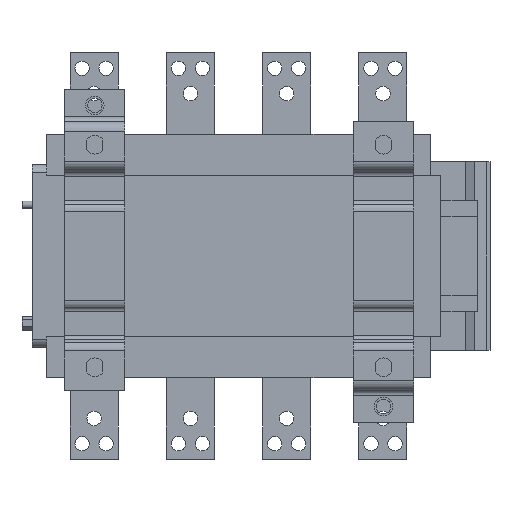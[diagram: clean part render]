
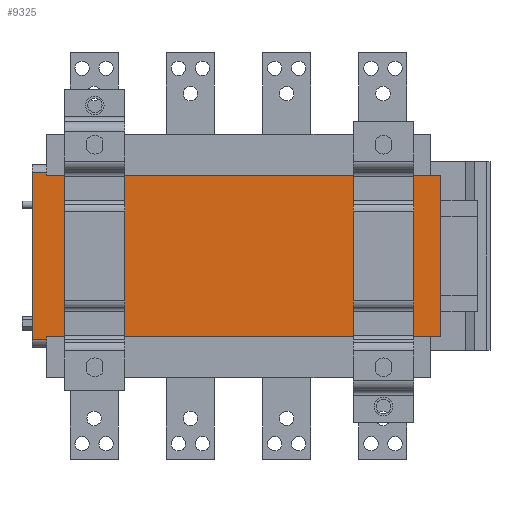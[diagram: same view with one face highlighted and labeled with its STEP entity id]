
A CAD part, front view. The second image highlights one B-rep face of the part: STEP entity #9325.
In plain terms, the highlighted planar face has unit normal (0, -1, 0).
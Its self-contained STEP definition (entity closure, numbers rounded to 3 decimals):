
#1103=DIRECTION('',(0.,0.,1.));
#1104=VECTOR('',#1103,1.9);
#1105=CARTESIAN_POINT('',(-159.25,14.5,-69.1));
#1106=LINE('',#1105,#1104);
#1176=DIRECTION('',(0.,0.,1.));
#1177=VECTOR('',#1176,1.9);
#1178=CARTESIAN_POINT('',(-159.25,14.5,67.2));
#1179=LINE('',#1178,#1177);
#1395=DIRECTION('',(-1.,0.,0.));
#1396=VECTOR('',#1395,327.75);
#1397=CARTESIAN_POINT('',(168.5,14.5,-67.2));
#1398=LINE('',#1397,#1396);
#1399=DIRECTION('',(-1.,0.,0.));
#1400=VECTOR('',#1399,11.75);
#1401=CARTESIAN_POINT('',(-159.25,14.5,-69.1));
#1402=LINE('',#1401,#1400);
#1403=DIRECTION('',(0.,0.,1.));
#1404=VECTOR('',#1403,138.2);
#1405=CARTESIAN_POINT('',(-171.,14.5,-69.1));
#1406=LINE('',#1405,#1404);
#1407=DIRECTION('',(0.,0.,-1.));
#1408=VECTOR('',#1407,134.4);
#1409=CARTESIAN_POINT('',(168.5,14.5,67.2));
#1410=LINE('',#1409,#1408);
#1411=DIRECTION('',(0.,0.,-1.));
#1412=VECTOR('',#1411,20.);
#1413=CARTESIAN_POINT('',(-144.25,14.5,66.15));
#1414=LINE('',#1413,#1412);
#1415=DIRECTION('',(1.,0.,0.));
#1416=VECTOR('',#1415,50.);
#1417=CARTESIAN_POINT('',(-144.25,14.5,46.15));
#1418=LINE('',#1417,#1416);
#1419=DIRECTION('',(0.,0.,-1.));
#1420=VECTOR('',#1419,20.);
#1421=CARTESIAN_POINT('',(-94.25,14.5,66.15));
#1422=LINE('',#1421,#1420);
#1423=DIRECTION('',(1.,0.,0.));
#1424=VECTOR('',#1423,50.);
#1425=CARTESIAN_POINT('',(-144.25,14.5,66.15));
#1426=LINE('',#1425,#1424);
#1427=DIRECTION('',(0.,0.,-1.));
#1428=VECTOR('',#1427,20.);
#1429=CARTESIAN_POINT('',(-144.25,14.5,-46.15));
#1430=LINE('',#1429,#1428);
#1431=DIRECTION('',(1.,0.,0.));
#1432=VECTOR('',#1431,50.);
#1433=CARTESIAN_POINT('',(-144.25,14.5,-66.15));
#1434=LINE('',#1433,#1432);
#1435=DIRECTION('',(0.,0.,-1.));
#1436=VECTOR('',#1435,20.);
#1437=CARTESIAN_POINT('',(-94.25,14.5,-46.15));
#1438=LINE('',#1437,#1436);
#1439=DIRECTION('',(1.,0.,0.));
#1440=VECTOR('',#1439,50.);
#1441=CARTESIAN_POINT('',(-144.25,14.5,-46.15));
#1442=LINE('',#1441,#1440);
#1443=DIRECTION('',(0.,0.,-1.));
#1444=VECTOR('',#1443,20.);
#1445=CARTESIAN_POINT('',(145.75,14.5,66.15));
#1446=LINE('',#1445,#1444);
#1447=DIRECTION('',(-1.,0.,0.));
#1448=VECTOR('',#1447,50.);
#1449=CARTESIAN_POINT('',(145.75,14.5,66.15));
#1450=LINE('',#1449,#1448);
#1451=DIRECTION('',(0.,0.,-1.));
#1452=VECTOR('',#1451,20.);
#1453=CARTESIAN_POINT('',(95.75,14.5,66.15));
#1454=LINE('',#1453,#1452);
#1455=DIRECTION('',(-1.,0.,0.));
#1456=VECTOR('',#1455,50.);
#1457=CARTESIAN_POINT('',(145.75,14.5,46.15));
#1458=LINE('',#1457,#1456);
#1459=DIRECTION('',(0.,0.,-1.));
#1460=VECTOR('',#1459,20.);
#1461=CARTESIAN_POINT('',(145.75,14.5,-46.15));
#1462=LINE('',#1461,#1460);
#1463=DIRECTION('',(-1.,0.,0.));
#1464=VECTOR('',#1463,50.);
#1465=CARTESIAN_POINT('',(145.75,14.5,-46.15));
#1466=LINE('',#1465,#1464);
#1467=DIRECTION('',(0.,0.,-1.));
#1468=VECTOR('',#1467,20.);
#1469=CARTESIAN_POINT('',(95.75,14.5,-46.15));
#1470=LINE('',#1469,#1468);
#1471=DIRECTION('',(-1.,0.,0.));
#1472=VECTOR('',#1471,50.);
#1473=CARTESIAN_POINT('',(145.75,14.5,-66.15));
#1474=LINE('',#1473,#1472);
#1495=DIRECTION('',(-1.,0.,0.));
#1496=VECTOR('',#1495,11.75);
#1497=CARTESIAN_POINT('',(-159.25,14.5,69.1));
#1498=LINE('',#1497,#1496);
#1511=DIRECTION('',(-1.,0.,0.));
#1512=VECTOR('',#1511,327.75);
#1513=CARTESIAN_POINT('',(168.5,14.5,67.2));
#1514=LINE('',#1513,#1512);
#6129=CARTESIAN_POINT('',(-159.25,14.5,-69.1));
#6130=VERTEX_POINT('',#6129);
#6131=CARTESIAN_POINT('',(-159.25,14.5,-67.2));
#6132=VERTEX_POINT('',#6131);
#6159=CARTESIAN_POINT('',(-171.,14.5,69.1));
#6160=VERTEX_POINT('',#6159);
#6161=CARTESIAN_POINT('',(-171.,14.5,-69.1));
#6162=VERTEX_POINT('',#6161);
#6175=CARTESIAN_POINT('',(-159.25,14.5,67.2));
#6176=VERTEX_POINT('',#6175);
#6177=CARTESIAN_POINT('',(-159.25,14.5,69.1));
#6178=VERTEX_POINT('',#6177);
#6214=CARTESIAN_POINT('',(168.5,14.5,-67.2));
#6215=VERTEX_POINT('',#6214);
#6216=CARTESIAN_POINT('',(168.5,14.5,67.2));
#6217=VERTEX_POINT('',#6216);
#6888=CARTESIAN_POINT('',(-144.25,14.5,66.15));
#6889=CARTESIAN_POINT('',(-144.25,14.5,46.15));
#6890=VERTEX_POINT('',#6888);
#6891=VERTEX_POINT('',#6889);
#6892=CARTESIAN_POINT('',(-144.25,14.5,-46.15));
#6893=CARTESIAN_POINT('',(-144.25,14.5,-66.15));
#6894=VERTEX_POINT('',#6892);
#6895=VERTEX_POINT('',#6893);
#6896=CARTESIAN_POINT('',(-94.25,14.5,66.15));
#6897=VERTEX_POINT('',#6896);
#6898=CARTESIAN_POINT('',(-94.25,14.5,46.15));
#6899=VERTEX_POINT('',#6898);
#6900=CARTESIAN_POINT('',(-94.25,14.5,-46.15));
#6901=VERTEX_POINT('',#6900);
#6902=CARTESIAN_POINT('',(-94.25,14.5,-66.15));
#6903=VERTEX_POINT('',#6902);
#7112=CARTESIAN_POINT('',(145.75,14.5,66.15));
#7113=CARTESIAN_POINT('',(145.75,14.5,46.15));
#7114=VERTEX_POINT('',#7112);
#7115=VERTEX_POINT('',#7113);
#7116=CARTESIAN_POINT('',(145.75,14.5,-46.15));
#7117=CARTESIAN_POINT('',(145.75,14.5,-66.15));
#7118=VERTEX_POINT('',#7116);
#7119=VERTEX_POINT('',#7117);
#7120=CARTESIAN_POINT('',(95.75,14.5,-66.15));
#7121=VERTEX_POINT('',#7120);
#7122=CARTESIAN_POINT('',(95.75,14.5,-46.15));
#7123=VERTEX_POINT('',#7122);
#7124=CARTESIAN_POINT('',(95.75,14.5,46.15));
#7125=VERTEX_POINT('',#7124);
#7126=CARTESIAN_POINT('',(95.75,14.5,66.15));
#7127=VERTEX_POINT('',#7126);
#9267=CARTESIAN_POINT('',(168.5,14.5,67.2));
#9268=DIRECTION('',(0.,-1.,0.));
#9269=DIRECTION('',(0.,0.,-1.));
#9270=AXIS2_PLACEMENT_3D('',#9267,#9268,#9269);
#9271=PLANE('',#9270);
#9272=ORIENTED_EDGE('',*,*,#9260,.T.);
#9273=ORIENTED_EDGE('',*,*,#8920,.F.);
#9275=ORIENTED_EDGE('',*,*,#9274,.T.);
#9276=ORIENTED_EDGE('',*,*,#8975,.T.);
#9278=ORIENTED_EDGE('',*,*,#9277,.F.);
#9279=ORIENTED_EDGE('',*,*,#9011,.F.);
#9281=ORIENTED_EDGE('',*,*,#9280,.F.);
#9282=ORIENTED_EDGE('',*,*,#9167,.T.);
#9283=EDGE_LOOP('',(#9272,#9273,#9275,#9276,#9278,#9279,#9281,#9282));
#9284=FACE_OUTER_BOUND('',#9283,.F.);
#9286=ORIENTED_EDGE('',*,*,#9285,.T.);
#9288=ORIENTED_EDGE('',*,*,#9287,.T.);
#9290=ORIENTED_EDGE('',*,*,#9289,.F.);
#9292=ORIENTED_EDGE('',*,*,#9291,.F.);
#9293=EDGE_LOOP('',(#9286,#9288,#9290,#9292));
#9294=FACE_BOUND('',#9293,.F.);
#9296=ORIENTED_EDGE('',*,*,#9295,.T.);
#9298=ORIENTED_EDGE('',*,*,#9297,.T.);
#9300=ORIENTED_EDGE('',*,*,#9299,.F.);
#9302=ORIENTED_EDGE('',*,*,#9301,.F.);
#9303=EDGE_LOOP('',(#9296,#9298,#9300,#9302));
#9304=FACE_BOUND('',#9303,.F.);
#9306=ORIENTED_EDGE('',*,*,#9305,.F.);
#9308=ORIENTED_EDGE('',*,*,#9307,.T.);
#9310=ORIENTED_EDGE('',*,*,#9309,.T.);
#9312=ORIENTED_EDGE('',*,*,#9311,.F.);
#9313=EDGE_LOOP('',(#9306,#9308,#9310,#9312));
#9314=FACE_BOUND('',#9313,.F.);
#9316=ORIENTED_EDGE('',*,*,#9315,.F.);
#9318=ORIENTED_EDGE('',*,*,#9317,.T.);
#9320=ORIENTED_EDGE('',*,*,#9319,.T.);
#9322=ORIENTED_EDGE('',*,*,#9321,.F.);
#9323=EDGE_LOOP('',(#9316,#9318,#9320,#9322));
#9324=FACE_BOUND('',#9323,.F.);
#9325=ADVANCED_FACE('',(#9284,#9294,#9304,#9314,#9324),#9271,.T.);
#8920=EDGE_CURVE('',#6130,#6132,#1106,.T.);
#8975=EDGE_CURVE('',#6162,#6160,#1406,.T.);
#9011=EDGE_CURVE('',#6176,#6178,#1179,.T.);
#9167=EDGE_CURVE('',#6217,#6215,#1410,.T.);
#9260=EDGE_CURVE('',#6215,#6132,#1398,.T.);
#9274=EDGE_CURVE('',#6130,#6162,#1402,.T.);
#9277=EDGE_CURVE('',#6178,#6160,#1498,.T.);
#9280=EDGE_CURVE('',#6217,#6176,#1514,.T.);
#9285=EDGE_CURVE('',#6890,#6891,#1414,.T.);
#9287=EDGE_CURVE('',#6891,#6899,#1418,.T.);
#9289=EDGE_CURVE('',#6897,#6899,#1422,.T.);
#9291=EDGE_CURVE('',#6890,#6897,#1426,.T.);
#9295=EDGE_CURVE('',#6894,#6895,#1430,.T.);
#9297=EDGE_CURVE('',#6895,#6903,#1434,.T.);
#9299=EDGE_CURVE('',#6901,#6903,#1438,.T.);
#9301=EDGE_CURVE('',#6894,#6901,#1442,.T.);
#9305=EDGE_CURVE('',#7114,#7115,#1446,.T.);
#9307=EDGE_CURVE('',#7114,#7127,#1450,.T.);
#9309=EDGE_CURVE('',#7127,#7125,#1454,.T.);
#9311=EDGE_CURVE('',#7115,#7125,#1458,.T.);
#9315=EDGE_CURVE('',#7118,#7119,#1462,.T.);
#9317=EDGE_CURVE('',#7118,#7123,#1466,.T.);
#9319=EDGE_CURVE('',#7123,#7121,#1470,.T.);
#9321=EDGE_CURVE('',#7119,#7121,#1474,.T.);
